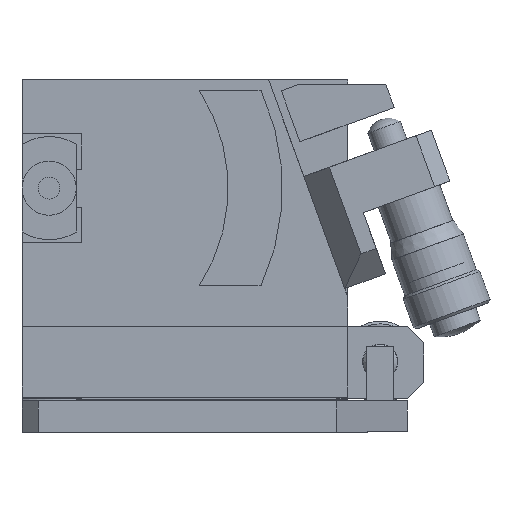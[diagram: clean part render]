
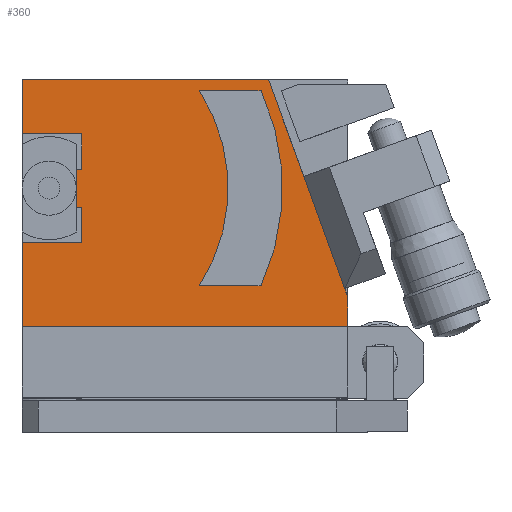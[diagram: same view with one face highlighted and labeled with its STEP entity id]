
A CAD part, front view. The second image highlights one B-rep face of the part: STEP entity #360.
In plain terms, the highlighted planar face has unit normal (0, -1, 0).
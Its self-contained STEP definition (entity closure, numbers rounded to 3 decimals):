
#360 = ADVANCED_FACE( '', ( #731, #732, #733 ), #734, .T. );
#731 = FACE_OUTER_BOUND( '', #1348, .T. );
#732 = FACE_BOUND( '', #1349, .T. );
#733 = FACE_BOUND( '', #1350, .T. );
#734 = PLANE( '', #1351 );
#1348 = EDGE_LOOP( '', ( #2271, #2272, #2273, #2274, #2275, #2276, #2277, #2278, #2279, #2280, #2281, #2282, #2283, #2284, #2285 ) );
#1349 = EDGE_LOOP( '', ( #2286, #2287, #2288, #2289 ) );
#1350 = EDGE_LOOP( '', ( #2290 ) );
#1351 = AXIS2_PLACEMENT_3D( '', #2291, #2292, #2293 );
#2271 = ORIENTED_EDGE( '', *, *, #3353, .F. );
#2272 = ORIENTED_EDGE( '', *, *, #3354, .F. );
#2273 = ORIENTED_EDGE( '', *, *, #3320, .F. );
#2274 = ORIENTED_EDGE( '', *, *, #3355, .F. );
#2275 = ORIENTED_EDGE( '', *, *, #3356, .F. );
#2276 = ORIENTED_EDGE( '', *, *, #3357, .T. );
#2277 = ORIENTED_EDGE( '', *, *, #3358, .F. );
#2278 = ORIENTED_EDGE( '', *, *, #3359, .F. );
#2279 = ORIENTED_EDGE( '', *, *, #3360, .F. );
#2280 = ORIENTED_EDGE( '', *, *, #3361, .F. );
#2281 = ORIENTED_EDGE( '', *, *, #3362, .F. );
#2282 = ORIENTED_EDGE( '', *, *, #3363, .F. );
#2283 = ORIENTED_EDGE( '', *, *, #3364, .T. );
#2284 = ORIENTED_EDGE( '', *, *, #3365, .T. );
#2285 = ORIENTED_EDGE( '', *, *, #3366, .T. );
#2286 = ORIENTED_EDGE( '', *, *, #3367, .F. );
#2287 = ORIENTED_EDGE( '', *, *, #3306, .F. );
#2288 = ORIENTED_EDGE( '', *, *, #3368, .F. );
#2289 = ORIENTED_EDGE( '', *, *, #3284, .F. );
#2290 = ORIENTED_EDGE( '', *, *, #3369, .T. );
#2291 = CARTESIAN_POINT( '', ( 197.124, 11.2, 519.248 ) );
#2292 = DIRECTION( '', ( 0., -1., 0. ) );
#2293 = DIRECTION( '', ( 0., 0., -1. ) );
#3284 = EDGE_CURVE( '', #3842, #3845, #3846, .F. );
#3306 = EDGE_CURVE( '', #3885, #3888, #3889, .F. );
#3320 = EDGE_CURVE( '', #3914, #3916, #3917, .T. );
#3353 = EDGE_CURVE( '', #3969, #3970, #3971, .T. );
#3354 = EDGE_CURVE( '', #3916, #3969, #3972, .T. );
#3355 = EDGE_CURVE( '', #3973, #3914, #3974, .T. );
#3356 = EDGE_CURVE( '', #3975, #3973, #3976, .T. );
#3357 = EDGE_CURVE( '', #3975, #3977, #3978, .T. );
#3358 = EDGE_CURVE( '', #3979, #3977, #3980, .T. );
#3359 = EDGE_CURVE( '', #3981, #3979, #3982, .T. );
#3360 = EDGE_CURVE( '', #3983, #3981, #3984, .T. );
#3361 = EDGE_CURVE( '', #3985, #3983, #3986, .T. );
#3362 = EDGE_CURVE( '', #3987, #3985, #3988, .F. );
#3363 = EDGE_CURVE( '', #3989, #3987, #3990, .T. );
#3364 = EDGE_CURVE( '', #3989, #3946, #3991, .T. );
#3365 = EDGE_CURVE( '', #3946, #3937, #3992, .F. );
#3366 = EDGE_CURVE( '', #3937, #3970, #3993, .T. );
#3367 = EDGE_CURVE( '', #3888, #3842, #3994, .T. );
#3368 = EDGE_CURVE( '', #3845, #3885, #3995, .F. );
#3369 = EDGE_CURVE( '', #3996, #3996, #3997, .F. );
#3842 = VERTEX_POINT( '', #4673 );
#3845 = VERTEX_POINT( '', #4677 );
#3846 = LINE( '', #4678, #4679 );
#3885 = VERTEX_POINT( '', #4738 );
#3888 = VERTEX_POINT( '', #4742 );
#3889 = LINE( '', #4743, #4744 );
#3914 = VERTEX_POINT( '', #4778 );
#3916 = VERTEX_POINT( '', #4781 );
#3917 = LINE( '', #4782, #4783 );
#3937 = VERTEX_POINT( '', #4814 );
#3946 = VERTEX_POINT( '', #4827 );
#3969 = VERTEX_POINT( '', #4861 );
#3970 = VERTEX_POINT( '', #4862 );
#3971 = LINE( '', #4863, #4864 );
#3972 = LINE( '', #4865, #4866 );
#3973 = VERTEX_POINT( '', #4867 );
#3974 = LINE( '', #4868, #4869 );
#3975 = VERTEX_POINT( '', #4870 );
#3976 = LINE( '', #4871, #4872 );
#3977 = VERTEX_POINT( '', #4873 );
#3978 = LINE( '', #4874, #4875 );
#3979 = VERTEX_POINT( '', #4876 );
#3980 = LINE( '', #4877, #4878 );
#3981 = VERTEX_POINT( '', #4879 );
#3982 = LINE( '', #4880, #4881 );
#3983 = VERTEX_POINT( '', #4882 );
#3984 = LINE( '', #4883, #4884 );
#3985 = VERTEX_POINT( '', #4885 );
#3986 = LINE( '', #4886, #4887 );
#3987 = VERTEX_POINT( '', #4888 );
#3988 = LINE( '', #4889, #4890 );
#3989 = VERTEX_POINT( '', #4891 );
#3990 = LINE( '', #4892, #4893 );
#3991 = LINE( '', #4894, #4895 );
#3992 = LINE( '', #4896, #4897 );
#3993 = LINE( '', #4898, #4899 );
#3994 = CIRCLE( '', #4900, 43. );
#3995 = CIRCLE( '', #4901, 33. );
#3996 = VERTEX_POINT( '', #4902 );
#3997 = CIRCLE( '', #4903, 0.935 );
#4673 = CARTESIAN_POINT( '', ( 44.051, 11.2, 63. ) );
#4677 = CARTESIAN_POINT( '', ( 32.659, 11.2, 63. ) );
#4678 = CARTESIAN_POINT( '', ( 32.659, 11.2, 63. ) );
#4679 = VECTOR( '', #5678, 1000. );
#4738 = CARTESIAN_POINT( '', ( 32.659, 11.2, 27. ) );
#4742 = CARTESIAN_POINT( '', ( 44.051, 11.2, 27. ) );
#4743 = CARTESIAN_POINT( '', ( 44.051, 11.2, 27. ) );
#4744 = VECTOR( '', #5700, 1000. );
#4778 = CARTESIAN_POINT( '', ( 11., 11.2, 55. ) );
#4781 = CARTESIAN_POINT( '', ( 0., 11.2, 55. ) );
#4782 = CARTESIAN_POINT( '', ( -425.059, 11.2, 55. ) );
#4783 = VECTOR( '', #5720, 1000. );
#4814 = CARTESIAN_POINT( '', ( 51.94, 11.2, 47.146 ) );
#4827 = CARTESIAN_POINT( '', ( 59.464, 11.2, 26.473 ) );
#4861 = CARTESIAN_POINT( '', ( 0., 11.2, 65. ) );
#4862 = CARTESIAN_POINT( '', ( 45.441, 11.2, 65. ) );
#4863 = CARTESIAN_POINT( '', ( 30., 11.2, 65. ) );
#4864 = VECTOR( '', #5762, 1000. );
#4865 = CARTESIAN_POINT( '', ( 0., 11.2, 35.75 ) );
#4866 = VECTOR( '', #5763, 1000. );
#4867 = CARTESIAN_POINT( '', ( 11., 11.2, 48.5 ) );
#4868 = CARTESIAN_POINT( '', ( 11., 11.2, 55. ) );
#4869 = VECTOR( '', #5764, 1000. );
#4870 = CARTESIAN_POINT( '', ( 4., 11.2, 48.5 ) );
#4871 = CARTESIAN_POINT( '', ( 11., 11.2, 48.5 ) );
#4872 = VECTOR( '', #5765, 1000. );
#4873 = CARTESIAN_POINT( '', ( 4., 11.2, 41.5 ) );
#4874 = CARTESIAN_POINT( '', ( 4., 11.2, 519.248 ) );
#4875 = VECTOR( '', #5766, 1000. );
#4876 = CARTESIAN_POINT( '', ( 11., 11.2, 41.5 ) );
#4877 = CARTESIAN_POINT( '', ( 0., 11.2, 41.5 ) );
#4878 = VECTOR( '', #5767, 1000. );
#4879 = CARTESIAN_POINT( '', ( 11., 11.2, 35. ) );
#4880 = CARTESIAN_POINT( '', ( 11., 11.2, 41.5 ) );
#4881 = VECTOR( '', #5768, 1000. );
#4882 = CARTESIAN_POINT( '', ( 0., 11.2, 35. ) );
#4883 = CARTESIAN_POINT( '', ( 11., 11.2, 35. ) );
#4884 = VECTOR( '', #5769, 1000. );
#4885 = CARTESIAN_POINT( '', ( 0., 11.2, 19.5 ) );
#4886 = CARTESIAN_POINT( '', ( 0., 11.2, 6. ) );
#4887 = VECTOR( '', #5770, 1000. );
#4888 = CARTESIAN_POINT( '', ( 60., 11.2, 19.5 ) );
#4889 = CARTESIAN_POINT( '', ( 197.124, 11.2, 19.5 ) );
#4890 = VECTOR( '', #5771, 1000. );
#4891 = CARTESIAN_POINT( '', ( 60., 11.2, 25. ) );
#4892 = CARTESIAN_POINT( '', ( 60., 11.2, 165.753 ) );
#4893 = VECTOR( '', #5772, 1000. );
#4894 = CARTESIAN_POINT( '', ( -82.808, 11.2, 417.361 ) );
#4895 = VECTOR( '', #5773, 1000. );
#4896 = CARTESIAN_POINT( '', ( -82.808, 11.2, 417.361 ) );
#4897 = VECTOR( '', #5774, 1000. );
#4898 = CARTESIAN_POINT( '', ( -82.808, 11.2, 417.361 ) );
#4899 = VECTOR( '', #5775, 1000. );
#4900 = AXIS2_PLACEMENT_3D( '', #5776, #5777, #5778 );
#4901 = AXIS2_PLACEMENT_3D( '', #5779, #5780, #5781 );
#4902 = CARTESIAN_POINT( '', ( 5., 11.2, 44.065 ) );
#4903 = AXIS2_PLACEMENT_3D( '', #5782, #5783, #5784 );
#5678 = DIRECTION( '', ( 1., 0., 0. ) );
#5700 = DIRECTION( '', ( -1., 0., 0. ) );
#5720 = DIRECTION( '', ( -1., 0., 0. ) );
#5762 = DIRECTION( '', ( 1., 0., 0. ) );
#5763 = DIRECTION( '', ( 0., 0., 1. ) );
#5764 = DIRECTION( '', ( 0., 0., 1. ) );
#5765 = DIRECTION( '', ( 1., 0., 0. ) );
#5766 = DIRECTION( '', ( 0., 0., -1. ) );
#5767 = DIRECTION( '', ( -1., 0., 0. ) );
#5768 = DIRECTION( '', ( 0., 0., 1. ) );
#5769 = DIRECTION( '', ( 1., 0., 0. ) );
#5770 = DIRECTION( '', ( 0., 0., 1. ) );
#5771 = DIRECTION( '', ( 1., 0., 0. ) );
#5772 = DIRECTION( '', ( 0., 0., -1. ) );
#5773 = DIRECTION( '', ( -0.342, 0., 0.94 ) );
#5774 = DIRECTION( '', ( 0.342, 0., -0.94 ) );
#5775 = DIRECTION( '', ( -0.342, 0., 0.94 ) );
#5776 = CARTESIAN_POINT( '', ( 5., 11.2, 45. ) );
#5777 = DIRECTION( '', ( 0., -1., 0. ) );
#5778 = DIRECTION( '', ( 0., 0., -1. ) );
#5779 = CARTESIAN_POINT( '', ( 5., 11.2, 45. ) );
#5780 = DIRECTION( '', ( 0., -1., 0. ) );
#5781 = DIRECTION( '', ( 0., 0., -1. ) );
#5782 = CARTESIAN_POINT( '', ( 5., 11.2, 45. ) );
#5783 = DIRECTION( '', ( 0., -1., 0. ) );
#5784 = DIRECTION( '', ( 0., 0., -1. ) );
